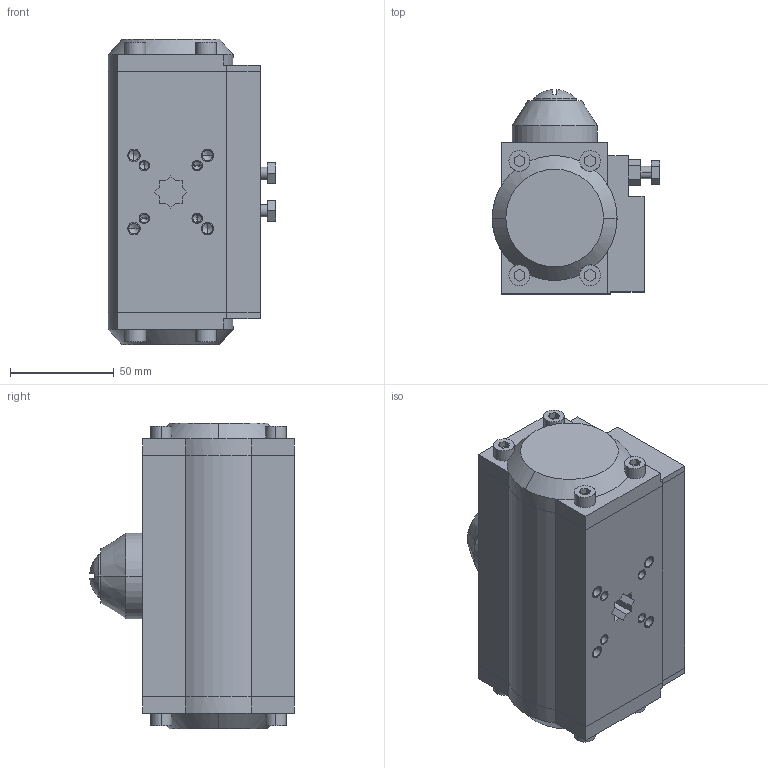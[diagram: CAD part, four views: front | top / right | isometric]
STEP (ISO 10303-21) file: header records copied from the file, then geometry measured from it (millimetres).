
FILE_DESCRIPTION((''),'2;1');
FILE_NAME('SB_PNEVMOPRIVOD_ASM','2024-01-12T',('DIMA'),(''),'PRO/ENGINEER BY PARAMETRIC TECHNOLOGY CORPORATION, 2008020','PRO/ENGINEER BY PARAMETRIC TECHNOLOGY CORPORATION, 2008020','');
FILE_SCHEMA(('CONFIG_CONTROL_DESIGN'));
Length unit declared in the file: millimetre
Products named in the file (7): KORPUS; KOLCO_14_GOST13942; KRISKA_VERX; VINT; KRISKA_LEFT; KRISKA_RIGHT; SB_PNEVMOPRIVOD_ASM
Assembly tree (6 placements, depth 2):
  SB_PNEVMOPRIVOD_ASM
    KORPUS
    KOLCO_14_GOST13942
    KRISKA_VERX
    VINT
    KRISKA_LEFT
    KRISKA_RIGHT
Bounding box: 80.5 x 98.43 x 147 mm (x, y, z)
Volume: 670192.1 mm3; surface area: 86174.1 mm2
Topology: 6 solids, 28 shells, 410 faces, 1050 edges, 675 vertices
Faces by surface type: plane 225, cylinder 137, cone 46, sphere 2
Entity records: 12502 total; most frequent: CARTESIAN_POINT 2292, DIRECTION 2204, ORIENTED_EDGE 1932, EDGE_CURVE 1012, AXIS2_PLACEMENT_3D 781, VERTEX_POINT 675, VECTOR 642, LINE 642
